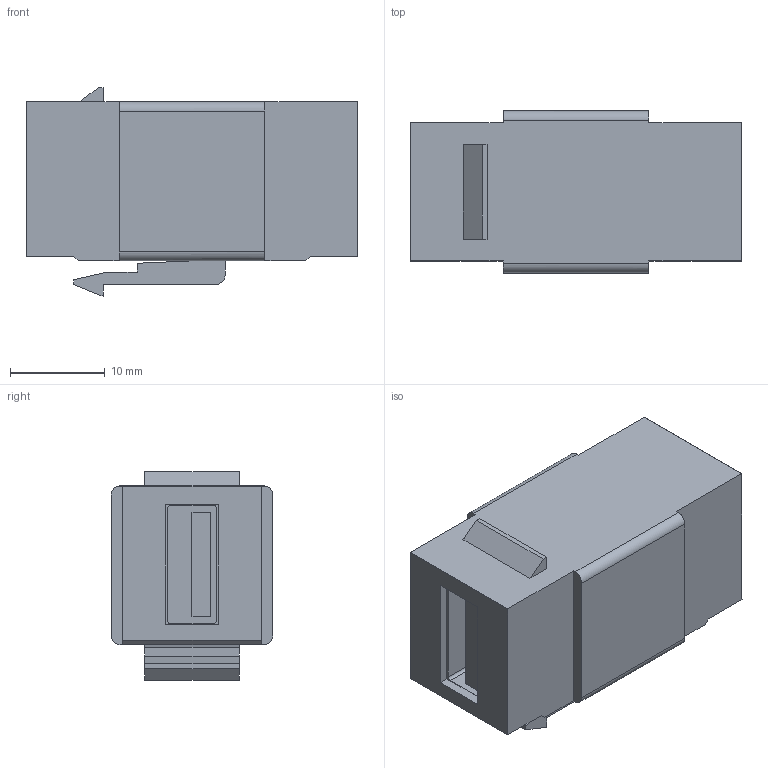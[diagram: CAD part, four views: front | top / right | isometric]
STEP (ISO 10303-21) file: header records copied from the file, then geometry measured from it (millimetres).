
FILE_DESCRIPTION( ('This file contains a STEP AP42 implementation' ,'as created by ZW3D STEP Interface translator.') ,'2;1' );
FILE_NAME( 'TB-027_210USB05N2BK_SD.stp' ,'26 330.134526', (''), ('ZWCAD Software Co.'), 'Version 1.0', 'ZW3D to STEP translator', '' );
FILE_SCHEMA(('AUTOMOTIVE_DESIGN'));
Length unit declared in the file: millimetre
Products named in the file (2): 0; TB-027_210USB05N2BK_SD
Bounding box: 35 x 17.1 x 22.03 mm (x, y, z)
Volume: 8585.1 mm3; surface area: 4358.9 mm2
Topology: 1 solids, 1 shells, 83 faces, 219 edges, 146 vertices
Faces by surface type: bspline 83
Entity records: 3618 total; most frequent: CARTESIAN_POINT 2141, ORIENTED_EDGE 438, B_SPLINE_CURVE_WITH_KNOTS 219, EDGE_CURVE 219, VERTEX_POINT 146, EDGE_LOOP 91, FACE_OUTER_BOUND 83, ADVANCED_FACE 83
